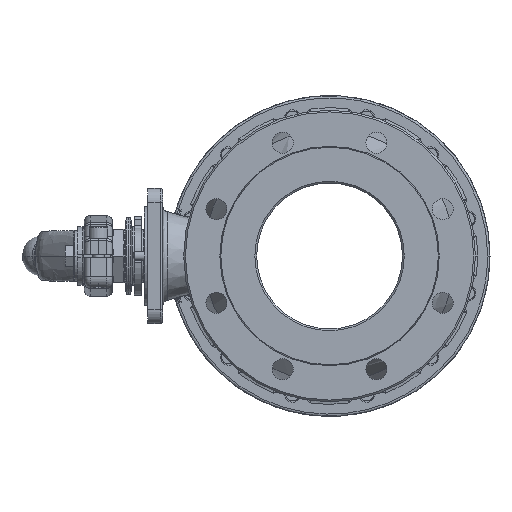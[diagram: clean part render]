
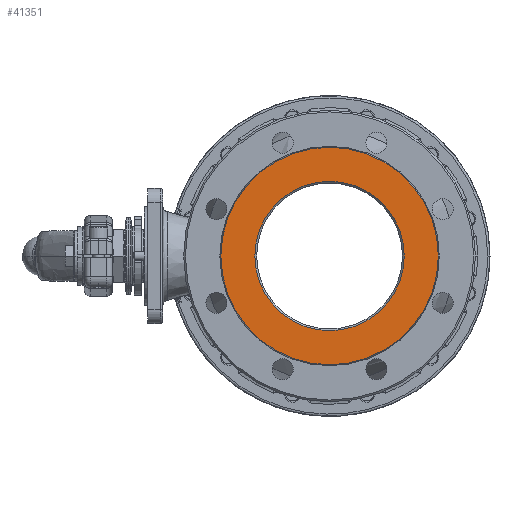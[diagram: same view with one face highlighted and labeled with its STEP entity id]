
A CAD part, left-side view. The second image highlights one B-rep face of the part: STEP entity #41351.
In plain terms, the highlighted planar face has unit normal (-1, 0, 0) as drawn and (0, -1, 0) by its records, which use the part's own axes.
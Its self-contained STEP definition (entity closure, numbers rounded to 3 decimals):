
#839 = VERTEX_POINT ( 'NONE', #25193 ) ;
#1302 = AXIS2_PLACEMENT_3D ( 'NONE', #23624, #9533, #32368 ) ;
#1729 = FACE_BOUND ( 'NONE', #53842, .T. ) ;
#1803 = CARTESIAN_POINT ( 'NONE',  ( 0., -89., -10.75 ) ) ;
#3716 = VERTEX_POINT ( 'NONE', #41057 ) ;
#5639 = EDGE_LOOP ( 'NONE', ( #21785, #57213 ) ) ;
#7747 = DIRECTION ( 'NONE',  ( 0., -1., 0. ) ) ;
#8362 = CARTESIAN_POINT ( 'NONE',  ( 0., -89., -10.75 ) ) ;
#8518 = DIRECTION ( 'NONE',  ( 0., 0., -1. ) ) ;
#9533 = DIRECTION ( 'NONE',  ( 0., -1., 0. ) ) ;
#9594 = AXIS2_PLACEMENT_3D ( 'NONE', #13670, #51402, #8518 ) ;
#9820 = EDGE_CURVE ( 'NONE', #17638, #3716, #20433, .T. ) ;
#13234 = AXIS2_PLACEMENT_3D ( 'NONE', #1803, #44124, #44321 ) ;
#13287 = ORIENTED_EDGE ( 'NONE', *, *, #57791, .F. ) ;
#13670 = CARTESIAN_POINT ( 'NONE',  ( 0., -89., -57.348 ) ) ;
#16910 = CARTESIAN_POINT ( 'NONE',  ( 0., -89., -10.75 ) ) ;
#17266 = DIRECTION ( 'NONE',  ( 0., 0., 1. ) ) ;
#17588 = AXIS2_PLACEMENT_3D ( 'NONE', #8362, #7747, #17266 ) ;
#17638 = VERTEX_POINT ( 'NONE', #24463 ) ;
#19405 = CIRCLE ( 'NONE', #13234, 64. ) ;
#20433 = CIRCLE ( 'NONE', #1302, 64. ) ;
#21785 = ORIENTED_EDGE ( 'NONE', *, *, #53395, .T. ) ;
#23624 = CARTESIAN_POINT ( 'NONE',  ( 0., -89., -10.75 ) ) ;
#24463 = CARTESIAN_POINT ( 'NONE',  ( 0., -89., -74.75 ) ) ;
#25193 = CARTESIAN_POINT ( 'NONE',  ( 0., -89., 82.446 ) ) ;
#25698 = VERTEX_POINT ( 'NONE', #60992 ) ;
#27471 = ORIENTED_EDGE ( 'NONE', *, *, #9820, .F. ) ;
#32368 = DIRECTION ( 'NONE',  ( 0., 0., -1. ) ) ;
#32930 = FACE_OUTER_BOUND ( 'NONE', #5639, .T. ) ;
#34958 = DIRECTION ( 'NONE',  ( 0., 0., 1. ) ) ;
#35792 = DIRECTION ( 'NONE',  ( 0., -1., 0. ) ) ;
#35886 = PLANE ( 'NONE',  #9594 ) ;
#36578 = CIRCLE ( 'NONE', #17588, 93.196 ) ;
#40969 = AXIS2_PLACEMENT_3D ( 'NONE', #16910, #35792, #34958 ) ;
#41057 = CARTESIAN_POINT ( 'NONE',  ( 0., -89., 53.25 ) ) ;
#41351 = ADVANCED_FACE ( 'NONE', ( #1729, #32930 ), #35886, .T. ) ;
#43470 = CIRCLE ( 'NONE', #40969, 93.196 ) ;
#44124 = DIRECTION ( 'NONE',  ( 0., -1., 0. ) ) ;
#44321 = DIRECTION ( 'NONE',  ( 0., 0., -1. ) ) ;
#51402 = DIRECTION ( 'NONE',  ( 0., -1., 0. ) ) ;
#53395 = EDGE_CURVE ( 'NONE', #839, #25698, #43470, .T. ) ;
#53842 = EDGE_LOOP ( 'NONE', ( #27471, #13287 ) ) ;
#56849 = EDGE_CURVE ( 'NONE', #25698, #839, #36578, .T. ) ;
#57213 = ORIENTED_EDGE ( 'NONE', *, *, #56849, .T. ) ;
#57791 = EDGE_CURVE ( 'NONE', #3716, #17638, #19405, .T. ) ;
#60992 = CARTESIAN_POINT ( 'NONE',  ( 0., -89., -103.946 ) ) ;
